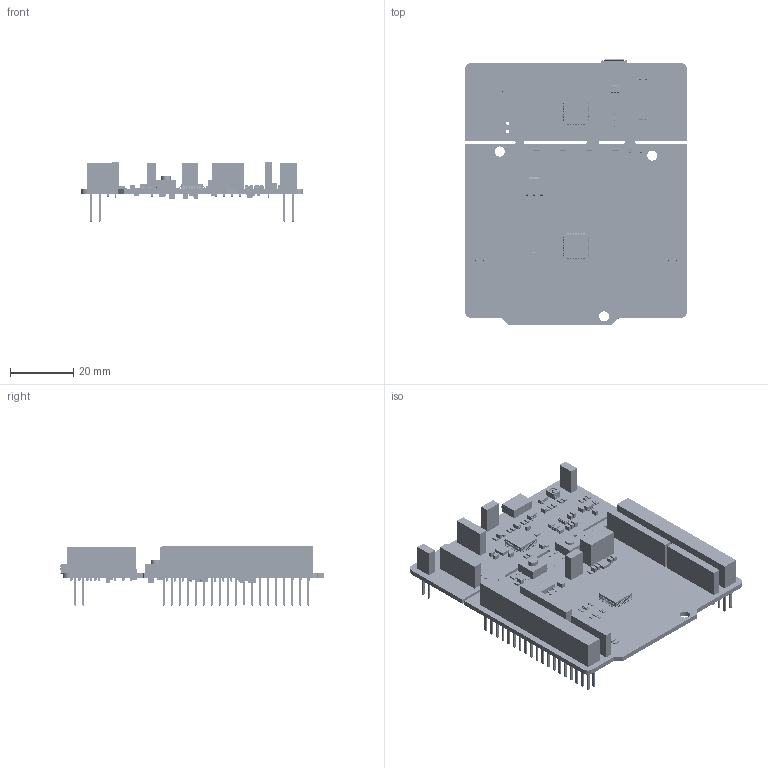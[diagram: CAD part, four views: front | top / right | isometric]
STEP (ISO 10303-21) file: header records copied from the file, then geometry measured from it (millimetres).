
FILE_DESCRIPTION(('Open CASCADE Model'),'2;1');
FILE_NAME('Open CASCADE Shape Model','2024-07-03T16:05:26',('Author'),( 'Open CASCADE'),'Open CASCADE STEP processor 6.8','Open CASCADE 6.8' ,'Unknown');
FILE_SCHEMA(('AUTOMOTIVE_DESIGN { 1 0 10303 214 1 1 1 1 }'));
Length unit declared in the file: millimetre
Products named in the file (294): PCB; Board; Open CASCADE STEP translator 6.8 1.1.1; U9; 0201; 7128434208; Extruded; U8; SB30; R0603; 7128426928; SB32; R31; R0402; 7127853008; D1; SOD323; 7127851168; SB17; U3; SOT23-5L; 7127841728; R22; 7127848848; R16; LD2; 7128431248; 7128431008; 7128430768; 7128430608; 7128430368; Cylinder; C14; C0603; 7128425488; C6; R5; R6; R7; T2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
Assembly tree (534 placements, depth 4):
  PCB
    Board
      Open CASCADE STEP translator 6.8 1.1.1
    U9
      0201
      7128434208
        Extruded
    U8
      0201
      7128434208
        Extruded
    SB30
      R0603
      7128426928
        Extruded
    SB32
      R0603
      7128426928
        Extruded
    R31
      R0402
      7127853008
        Extruded
    D1
      SOD323
      7127851168
        Extruded
    SB17
      R0603
      7128426928
        Extruded
    U3
      SOT23-5L
      7127841728
        Extruded
    R22
      R0603
      7127848848
        Extruded
    R16
      R0603
      7127848848
        Extruded
    LD2
      7128431248  x2
        Extruded
      7128431008  x2
        Extruded
      7128430768
        Extruded
      7128430608
        Extruded
      7128430368
        Cylinder
    C14
      C0603
      7128425488
        Extruded
    C6
      C0603
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Bounding box: 70.13 x 83.71 x 18.67 mm (x, y, z)
Volume: 20679.6 mm3; surface area: 33927.1 mm2
Topology: 547 solids, 549 shells, 20184 faces, 49090 edges, 29532 vertices
Faces by surface type: plane 11618, bspline 4280, cylinder 3968, sphere 250, torus 36, revolution 32
Full cylindrical faces by diameter (mm): 0.2 x1, 0.9 x2, 1 x104, 1.1 x32, 3.2 x3
Entity records: 224919 total; most frequent: CARTESIAN_POINT 49685, ORIENTED_EDGE 29660, DIRECTION 27722, EDGE_CURVE 14831, LINE 12810, VECTOR 12810, VERTEX_POINT 9344, AXIS2_PLACEMENT_3D 7452
